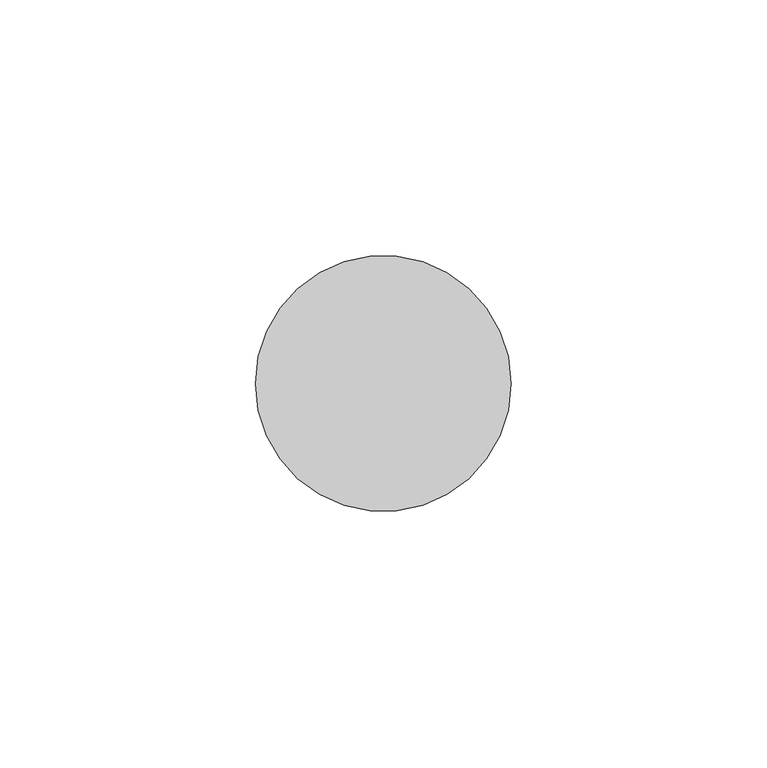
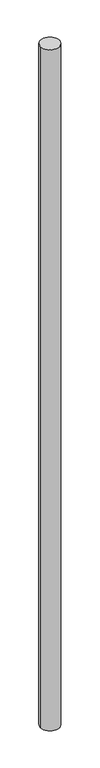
"""IFC4 building model written with IfcOpenShell, lengths in millimetres: member geometry, 圓形豎框 : 25mm 半徑."""

from ifc_helpers import new_model, si_unit, point, frame, origin, origin_2d, place, context, project, spatial, circle_curve, trimmed, segment, composite_curve, outline, extrude, source, transform, mapped, element, save


def member_d0450398(model_context):
    return source(origin(), model_context, "Body", "SweptSolid", [
        extrude(outline(composite_curve([segment(trimmed(circle_curve(origin_2d(), 25.0), [point((25.0, 0.0))], [point((-25.0, 0.0))], False, "CARTESIAN"), True, "CONTINUOUS"), segment(trimmed(circle_curve(origin_2d(), 25.0), [point((-25.0, 0.0))], [point((25.0, 0.0))], False, "CARTESIAN"), True, "CONTINUOUS")], self_intersect=False)), frame((0.0, 0.0, -1884.2380074), z_axis=(0.0, 0.0, 1.0), x_axis=(1.0, 0.0, 0.0)), (0.0, 0.0, 1.0), 1884.2380074),
    ])


if __name__ == "__main__":
    model = new_model("IFC4")
    model_context = context("Model", 3, world=origin())
    ifc_project = project(units=[si_unit("LENGTHUNIT", "METRE", prefix="MILLI")], contexts=[model_context])
    site = spatial("IfcSite", under=ifc_project)
    building = spatial("IfcBuilding", under=site)
    placement = place(None, origin())
    member_shape = member_d0450398(model_context)
    element("IfcMember", 1, ObjectType="圓形豎框 : 25mm 半徑", at=placement, inside=building, context=model_context, shape_type="MappedRepresentation", body=[
        mapped(member_shape, transform((0.0, 0.0, 0.0), x_axis=(1.0, 0.0, 0.0), y_axis=(0.0, 1.0, 0.0), z_axis=(0.0, 0.0, 1.0))),
    ])
    save(model, "model.ifc")
